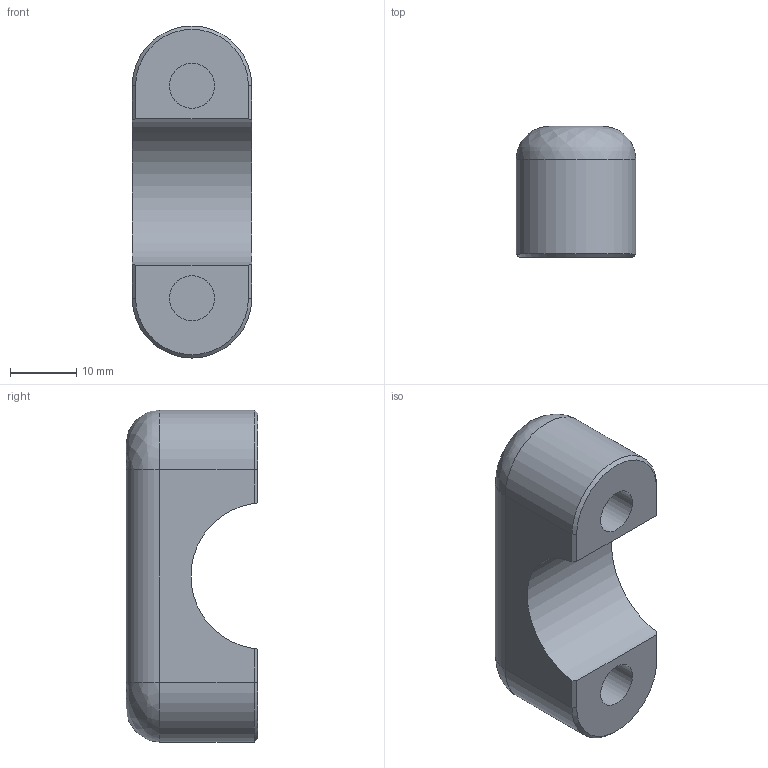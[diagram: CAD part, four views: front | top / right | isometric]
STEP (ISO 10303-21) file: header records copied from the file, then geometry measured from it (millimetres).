
FILE_DESCRIPTION(/* description */ (''),/* implementation_level */ '2;1');
FILE_NAME(/* name */ 'Top Clamp.step',/* time_stamp */ '2024-02-04T12:48:41-06:00',/* author */ (''),/* organization */ (''),/* preprocessor_version */ 'ST-DEVELOPER v20',/* originating_system */ 'Autodesk Translation Framework v12.20.1.177',/* authorisation */ '');
FILE_SCHEMA (('AUTOMOTIVE_DESIGN { 1 0 10303 214 3 1 1 }'));
Length unit declared in the file: millimetre
Products named in the file (3): Top Clamp Prototyping; Simplified Clamps k75d; Upper Clamp
Assembly tree (2 placements, depth 3):
  Top Clamp Prototyping
    Simplified Clamps k75d
      Upper Clamp
Bounding box: 18 x 19.75 x 50 mm (x, y, z)
Volume: 11644.7 mm3; surface area: 4240.8 mm2
Topology: 1 solids, 1 shells, 22 faces, 46 edges, 28 vertices
Faces by surface type: plane 11, cylinder 7, bspline 2, cone 2
Full cylindrical faces by diameter (mm): 6.779 x2
Entity records: 695 total; most frequent: CARTESIAN_POINT 129, DIRECTION 118, ORIENTED_EDGE 92, AXIS2_PLACEMENT_3D 47, EDGE_CURVE 46, VERTEX_POINT 28, EDGE_LOOP 24, LINE 24
